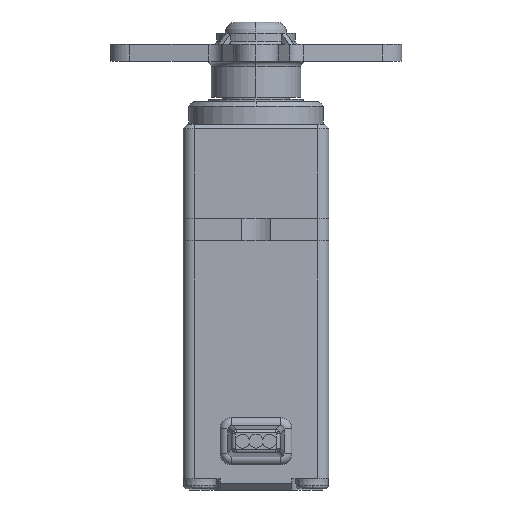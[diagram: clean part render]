
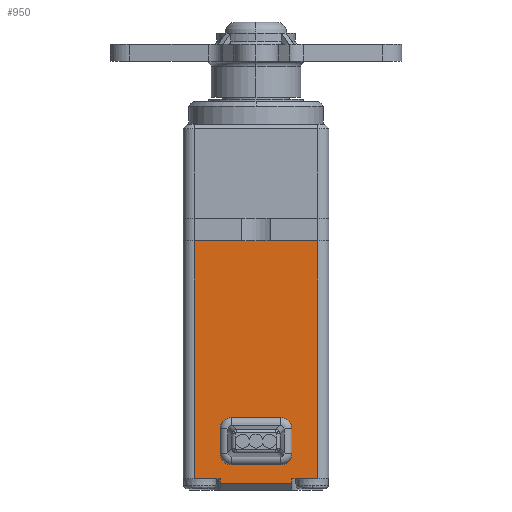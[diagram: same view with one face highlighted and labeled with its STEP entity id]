
A CAD part, front view. The second image highlights one B-rep face of the part: STEP entity #950.
In plain terms, the highlighted planar face has unit normal (0, -1, 0).
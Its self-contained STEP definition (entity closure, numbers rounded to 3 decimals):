
#21 = VERTEX_POINT ( 'NONE', #6004 ) ;
#216 = DIRECTION ( 'NONE',  ( 0., 0., 1. ) ) ;
#367 = DIRECTION ( 'NONE',  ( 0., 0., 1. ) ) ;
#388 = DIRECTION ( 'NONE',  ( 0., 0., 1. ) ) ;
#796 = VERTEX_POINT ( 'NONE', #6076 ) ;
#897 = CARTESIAN_POINT ( 'NONE',  ( -2.2, -7.45, -29.35 ) ) ;
#950 = ADVANCED_FACE ( 'NONE', ( #8784, #10593 ), #10543, .F. ) ;
#970 = EDGE_LOOP ( 'NONE', ( #10233, #1577, #5970, #5544, #9002, #8362, #4244, #6638 ) ) ;
#986 = EDGE_CURVE ( 'NONE', #10618, #8251, #3280, .T. ) ;
#1001 = ORIENTED_EDGE ( 'NONE', *, *, #10094, .F. ) ;
#1005 = CIRCLE ( 'NONE', #5103, 1. ) ;
#1162 = VERTEX_POINT ( 'NONE', #5044 ) ;
#1165 = LINE ( 'NONE', #3021, #7080 ) ;
#1203 = VECTOR ( 'NONE', #9603, 1000. ) ;
#1520 = DIRECTION ( 'NONE',  ( -1., 0., 0. ) ) ;
#1577 = ORIENTED_EDGE ( 'NONE', *, *, #9134, .F. ) ;
#1617 = LINE ( 'NONE', #5031, #8366 ) ;
#1887 = CARTESIAN_POINT ( 'NONE',  ( 2.2, -7.45, -29.35 ) ) ;
#1945 = CARTESIAN_POINT ( 'NONE',  ( -6.5, -7.45, -11.2 ) ) ;
#1973 = CARTESIAN_POINT ( 'NONE',  ( 3.2, -7.45, -32. ) ) ;
#1998 = DIRECTION ( 'NONE',  ( 0., 0., 1. ) ) ;
#2015 = VERTEX_POINT ( 'NONE', #4222 ) ;
#2048 = ORIENTED_EDGE ( 'NONE', *, *, #3389, .F. ) ;
#2162 = CARTESIAN_POINT ( 'NONE',  ( -6.5, -7.45, -31.6 ) ) ;
#2164 = EDGE_CURVE ( 'NONE', #5573, #4423, #2451, .T. ) ;
#2243 = CARTESIAN_POINT ( 'NONE',  ( -3.2, -7.45, -11.2 ) ) ;
#2451 = LINE ( 'NONE', #8618, #5630 ) ;
#2642 = EDGE_CURVE ( 'NONE', #5143, #2015, #5784, .T. ) ;
#2807 = VERTEX_POINT ( 'NONE', #1973 ) ;
#2930 = AXIS2_PLACEMENT_3D ( 'NONE', #1887, #8667, #5307 ) ;
#2992 = AXIS2_PLACEMENT_3D ( 'NONE', #10087, #3279, #8262 ) ;
#3021 = CARTESIAN_POINT ( 'NONE',  ( 3.2, -7.45, -11.2 ) ) ;
#3078 = VERTEX_POINT ( 'NONE', #9828 ) ;
#3270 = EDGE_CURVE ( 'NONE', #5002, #3078, #1005, .T. ) ;
#3279 = DIRECTION ( 'NONE',  ( 0., -1., 0. ) ) ;
#3280 = CIRCLE ( 'NONE', #2930, 1. ) ;
#3302 = LINE ( 'NONE', #7612, #4032 ) ;
#3389 = EDGE_CURVE ( 'NONE', #5143, #796, #3302, .T. ) ;
#3427 = VECTOR ( 'NONE', #5582, 1000. ) ;
#3588 = EDGE_LOOP ( 'NONE', ( #7758, #8804, #10247, #10082, #1001, #9818, #10692, #2048 ) ) ;
#3663 = DIRECTION ( 'NONE',  ( 0., 1., 0. ) ) ;
#3687 = CARTESIAN_POINT ( 'NONE',  ( -3.2, -7.45, -31.6 ) ) ;
#3700 = VECTOR ( 'NONE', #6318, 1000. ) ;
#3732 = DIRECTION ( 'NONE',  ( 0., 0., -1. ) ) ;
#3754 = CARTESIAN_POINT ( 'NONE',  ( -6.5, -7.45, -32. ) ) ;
#3783 = EDGE_CURVE ( 'NONE', #21, #2807, #1165, .T. ) ;
#3832 = LINE ( 'NONE', #2162, #3427 ) ;
#3885 = CARTESIAN_POINT ( 'NONE',  ( -2.2, -7.45, -26.15 ) ) ;
#4032 = VECTOR ( 'NONE', #10161, 1000. ) ;
#4188 = AXIS2_PLACEMENT_3D ( 'NONE', #897, #8628, #216 ) ;
#4222 = CARTESIAN_POINT ( 'NONE',  ( -5.5, -7.45, -10.4 ) ) ;
#4244 = ORIENTED_EDGE ( 'NONE', *, *, #6191, .F. ) ;
#4423 = VERTEX_POINT ( 'NONE', #8658 ) ;
#4565 = LINE ( 'NONE', #6095, #1203 ) ;
#5002 = VERTEX_POINT ( 'NONE', #3885 ) ;
#5031 = CARTESIAN_POINT ( 'NONE',  ( -6.5, -7.45, -26.15 ) ) ;
#5044 = CARTESIAN_POINT ( 'NONE',  ( -2.2, -7.45, -30.35 ) ) ;
#5103 = AXIS2_PLACEMENT_3D ( 'NONE', #9087, #7220, #388 ) ;
#5143 = VERTEX_POINT ( 'NONE', #6115 ) ;
#5283 = LINE ( 'NONE', #5991, #6741 ) ;
#5294 = CIRCLE ( 'NONE', #4188, 1. ) ;
#5307 = DIRECTION ( 'NONE',  ( 0., 0., 1. ) ) ;
#5544 = ORIENTED_EDGE ( 'NONE', *, *, #3270, .F. ) ;
#5573 = VERTEX_POINT ( 'NONE', #3687 ) ;
#5582 = DIRECTION ( 'NONE',  ( -1., 0., 0. ) ) ;
#5630 = VECTOR ( 'NONE', #5861, 1000. ) ;
#5638 = CARTESIAN_POINT ( 'NONE',  ( -3.2, -7.45, -32. ) ) ;
#5668 = DIRECTION ( 'NONE',  ( 0., 0., 1. ) ) ;
#5784 = LINE ( 'NONE', #10079, #10143 ) ;
#5861 = DIRECTION ( 'NONE',  ( -1., 0., 0. ) ) ;
#5970 = ORIENTED_EDGE ( 'NONE', *, *, #7551, .F. ) ;
#5991 = CARTESIAN_POINT ( 'NONE',  ( 3.2, -7.45, -11.2 ) ) ;
#6004 = CARTESIAN_POINT ( 'NONE',  ( 3.2, -7.45, -31.6 ) ) ;
#6019 = EDGE_CURVE ( 'NONE', #9595, #5002, #1617, .T. ) ;
#6070 = CARTESIAN_POINT ( 'NONE',  ( -3.2, -7.45, -11.2 ) ) ;
#6076 = CARTESIAN_POINT ( 'NONE',  ( 5.5, -7.45, -31.6 ) ) ;
#6095 = CARTESIAN_POINT ( 'NONE',  ( -6.5, -7.45, -30.35 ) ) ;
#6115 = CARTESIAN_POINT ( 'NONE',  ( 5.5, -7.45, -10.4 ) ) ;
#6191 = EDGE_CURVE ( 'NONE', #8251, #6679, #5283, .T. ) ;
#6318 = DIRECTION ( 'NONE',  ( -1., 0., 0. ) ) ;
#6377 = CARTESIAN_POINT ( 'NONE',  ( -3.2, -7.45, -29.35 ) ) ;
#6405 = VECTOR ( 'NONE', #9530, 1000. ) ;
#6552 = CARTESIAN_POINT ( 'NONE',  ( 3.2, -7.45, -29.35 ) ) ;
#6638 = ORIENTED_EDGE ( 'NONE', *, *, #986, .F. ) ;
#6671 = AXIS2_PLACEMENT_3D ( 'NONE', #1945, #3663, #367 ) ;
#6679 = VERTEX_POINT ( 'NONE', #8790 ) ;
#6741 = VECTOR ( 'NONE', #9617, 1000. ) ;
#6767 = DIRECTION ( 'NONE',  ( -1., 0., 0. ) ) ;
#7080 = VECTOR ( 'NONE', #3732, 1000. ) ;
#7081 = LINE ( 'NONE', #6070, #6405 ) ;
#7220 = DIRECTION ( 'NONE',  ( 0., -1., 0. ) ) ;
#7379 = CARTESIAN_POINT ( 'NONE',  ( 2.2, -7.45, -30.35 ) ) ;
#7551 = EDGE_CURVE ( 'NONE', #3078, #8861, #7081, .T. ) ;
#7612 = CARTESIAN_POINT ( 'NONE',  ( 5.5, -7.45, -11.2 ) ) ;
#7758 = ORIENTED_EDGE ( 'NONE', *, *, #2642, .T. ) ;
#7869 = LINE ( 'NONE', #3754, #3700 ) ;
#7886 = CARTESIAN_POINT ( 'NONE',  ( 2.2, -7.45, -26.15 ) ) ;
#7897 = LINE ( 'NONE', #10406, #10689 ) ;
#8251 = VERTEX_POINT ( 'NONE', #6552 ) ;
#8262 = DIRECTION ( 'NONE',  ( 0., 0., 1. ) ) ;
#8362 = ORIENTED_EDGE ( 'NONE', *, *, #9920, .F. ) ;
#8366 = VECTOR ( 'NONE', #6767, 1000. ) ;
#8520 = VERTEX_POINT ( 'NONE', #5638 ) ;
#8560 = EDGE_CURVE ( 'NONE', #796, #21, #3832, .T. ) ;
#8618 = CARTESIAN_POINT ( 'NONE',  ( -5., -7.45, -31.6 ) ) ;
#8628 = DIRECTION ( 'NONE',  ( 0., -1., 0. ) ) ;
#8658 = CARTESIAN_POINT ( 'NONE',  ( -5.5, -7.45, -31.6 ) ) ;
#8667 = DIRECTION ( 'NONE',  ( 0., -1., 0. ) ) ;
#8717 = CIRCLE ( 'NONE', #2992, 1. ) ;
#8784 = FACE_OUTER_BOUND ( 'NONE', #3588, .T. ) ;
#8790 = CARTESIAN_POINT ( 'NONE',  ( 3.2, -7.45, -27.15 ) ) ;
#8804 = ORIENTED_EDGE ( 'NONE', *, *, #9209, .F. ) ;
#8861 = VERTEX_POINT ( 'NONE', #6377 ) ;
#9002 = ORIENTED_EDGE ( 'NONE', *, *, #6019, .F. ) ;
#9087 = CARTESIAN_POINT ( 'NONE',  ( -2.2, -7.45, -27.15 ) ) ;
#9134 = EDGE_CURVE ( 'NONE', #8861, #1162, #5294, .T. ) ;
#9209 = EDGE_CURVE ( 'NONE', #4423, #2015, #7897, .T. ) ;
#9271 = VECTOR ( 'NONE', #5668, 1000. ) ;
#9530 = DIRECTION ( 'NONE',  ( 0., 0., -1. ) ) ;
#9595 = VERTEX_POINT ( 'NONE', #7886 ) ;
#9603 = DIRECTION ( 'NONE',  ( 1., 0., 0. ) ) ;
#9617 = DIRECTION ( 'NONE',  ( 0., 0., 1. ) ) ;
#9818 = ORIENTED_EDGE ( 'NONE', *, *, #3783, .F. ) ;
#9828 = CARTESIAN_POINT ( 'NONE',  ( -3.2, -7.45, -27.15 ) ) ;
#9920 = EDGE_CURVE ( 'NONE', #6679, #9595, #8717, .T. ) ;
#9948 = LINE ( 'NONE', #2243, #9271 ) ;
#10079 = CARTESIAN_POINT ( 'NONE',  ( -5.5, -7.45, -10.4 ) ) ;
#10082 = ORIENTED_EDGE ( 'NONE', *, *, #10263, .F. ) ;
#10087 = CARTESIAN_POINT ( 'NONE',  ( 2.2, -7.45, -27.15 ) ) ;
#10094 = EDGE_CURVE ( 'NONE', #2807, #8520, #7869, .T. ) ;
#10143 = VECTOR ( 'NONE', #1520, 1000. ) ;
#10161 = DIRECTION ( 'NONE',  ( 0., 0., -1. ) ) ;
#10233 = ORIENTED_EDGE ( 'NONE', *, *, #10446, .F. ) ;
#10247 = ORIENTED_EDGE ( 'NONE', *, *, #2164, .F. ) ;
#10263 = EDGE_CURVE ( 'NONE', #8520, #5573, #9948, .T. ) ;
#10406 = CARTESIAN_POINT ( 'NONE',  ( -5.5, -7.45, -11.2 ) ) ;
#10446 = EDGE_CURVE ( 'NONE', #1162, #10618, #4565, .T. ) ;
#10543 = PLANE ( 'NONE',  #6671 ) ;
#10593 = FACE_BOUND ( 'NONE', #970, .T. ) ;
#10618 = VERTEX_POINT ( 'NONE', #7379 ) ;
#10689 = VECTOR ( 'NONE', #1998, 1000. ) ;
#10692 = ORIENTED_EDGE ( 'NONE', *, *, #8560, .F. ) ;
